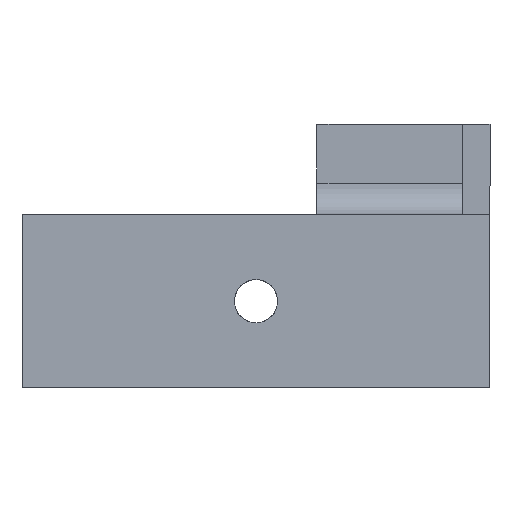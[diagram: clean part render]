
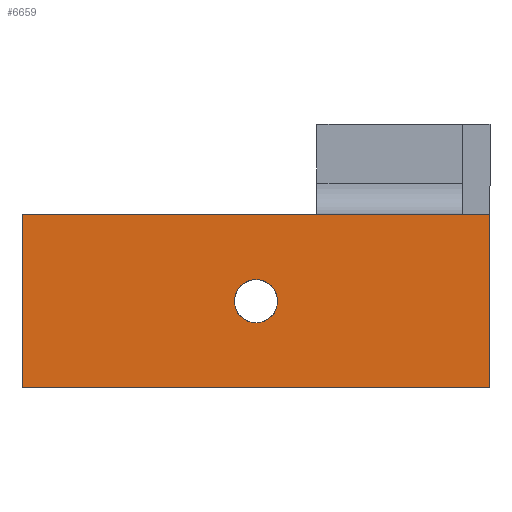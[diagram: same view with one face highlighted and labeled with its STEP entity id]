
A CAD part, front view. The second image highlights one B-rep face of the part: STEP entity #6659.
In plain terms, the highlighted planar face has unit normal (0, -1, 0).
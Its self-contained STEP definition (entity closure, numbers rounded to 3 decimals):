
#118 = CIRCLE ( 'NONE', #5453, 1.375 ) ;
#336 = FACE_BOUND ( 'NONE', #3032, .T. ) ;
#337 = FACE_OUTER_BOUND ( 'NONE', #6432, .T. ) ;
#679 = CARTESIAN_POINT ( 'NONE',  ( 14.875, 0., 5.5 ) ) ;
#680 = DIRECTION ( 'NONE',  ( 0., 1., 0. ) ) ;
#681 = DIRECTION ( 'NONE',  ( 0., 0., 1. ) ) ;
#1026 = CARTESIAN_POINT ( 'NONE',  ( 14.875, 0., 5.5 ) ) ;
#1027 = DIRECTION ( 'NONE',  ( 0., 1., 0. ) ) ;
#1028 = DIRECTION ( 'NONE',  ( 0., 0., 1. ) ) ;
#1029 = CARTESIAN_POINT ( 'NONE',  ( 0., 0., 11. ) ) ;
#1030 = DIRECTION ( 'NONE',  ( 0., 0., -1. ) ) ;
#1159 = CARTESIAN_POINT ( 'NONE',  ( 29.75, 0., 11. ) ) ;
#1160 = DIRECTION ( 'NONE',  ( 0., 0., -1. ) ) ;
#1511 = LINE ( 'NONE', #1029, #1513 ) ;
#1512 = CIRCLE ( 'NONE', #5488, 1.375 ) ;
#1513 = VECTOR ( 'NONE', #1030, 1000. ) ;
#1638 = LINE ( 'NONE', #1159, #1639 ) ;
#1639 = VECTOR ( 'NONE', #1160, 1000. ) ;
#1915 = ORIENTED_EDGE ( 'NONE', *, *, #5886, .T. ) ;
#1916 = ORIENTED_EDGE ( 'NONE', *, *, #5775, .T. ) ;
#1917 = ORIENTED_EDGE ( 'NONE', *, *, #5678, .T. ) ;
#1918 = ORIENTED_EDGE ( 'NONE', *, *, #5960, .F. ) ;
#1919 = ORIENTED_EDGE ( 'NONE', *, *, #3027, .F. ) ;
#1920 = ORIENTED_EDGE ( 'NONE', *, *, #5887, .T. ) ;
#2197 = VERTEX_POINT ( 'NONE', #4669 ) ;
#2257 = VERTEX_POINT ( 'NONE', #4705 ) ;
#2310 = VERTEX_POINT ( 'NONE', #4737 ) ;
#2365 = VERTEX_POINT ( 'NONE', #4743 ) ;
#2367 = VERTEX_POINT ( 'NONE', #4745 ) ;
#2411 = VERTEX_POINT ( 'NONE', #3712 ) ;
#2568 = PLANE ( 'NONE',  #5499 ) ;
#2569 = CARTESIAN_POINT ( 'NONE',  ( 0., 0., 11. ) ) ;
#2570 = DIRECTION ( 'NONE',  ( 0., 1., 0. ) ) ;
#2571 = DIRECTION ( 'NONE',  ( 0., 0., 1. ) ) ;
#3027 = EDGE_CURVE ( 'NONE', #2365, #2411, #5090, .T. ) ;
#3032 = EDGE_LOOP ( 'NONE', ( #1915, #1916 ) ) ;
#3326 = LINE ( 'NONE', #6176, #3327 ) ;
#3327 = VECTOR ( 'NONE', #6177, 1000. ) ;
#3712 = CARTESIAN_POINT ( 'NONE',  ( 29.75, 0., 11. ) ) ;
#4119 = CARTESIAN_POINT ( 'NONE',  ( 0., 0., 11. ) ) ;
#4120 = DIRECTION ( 'NONE',  ( 1., 0., 0. ) ) ;
#4669 = CARTESIAN_POINT ( 'NONE',  ( 14.875, 0., 4.125 ) ) ;
#4705 = CARTESIAN_POINT ( 'NONE',  ( 29.75, 0., 0. ) ) ;
#4737 = CARTESIAN_POINT ( 'NONE',  ( 14.875, 0., 6.875 ) ) ;
#4743 = CARTESIAN_POINT ( 'NONE',  ( 0., 0., 11. ) ) ;
#4745 = CARTESIAN_POINT ( 'NONE',  ( 0., 0., 0. ) ) ;
#5090 = LINE ( 'NONE', #4119, #5091 ) ;
#5091 = VECTOR ( 'NONE', #4120, 1000. ) ;
#5453 = AXIS2_PLACEMENT_3D ( 'NONE', #679, #680, #681 ) ;
#5488 = AXIS2_PLACEMENT_3D ( 'NONE', #1026, #1027, #1028 ) ;
#5499 = AXIS2_PLACEMENT_3D ( 'NONE', #2569, #2570, #2571 ) ;
#5678 = EDGE_CURVE ( 'NONE', #2367, #2257, #3326, .T. ) ;
#5775 = EDGE_CURVE ( 'NONE', #2197, #2310, #118, .T. ) ;
#5886 = EDGE_CURVE ( 'NONE', #2310, #2197, #1512, .T. ) ;
#5887 = EDGE_CURVE ( 'NONE', #2365, #2367, #1511, .T. ) ;
#5960 = EDGE_CURVE ( 'NONE', #2411, #2257, #1638, .T. ) ;
#6176 = CARTESIAN_POINT ( 'NONE',  ( 0., 0., 0. ) ) ;
#6177 = DIRECTION ( 'NONE',  ( 1., 0., 0. ) ) ;
#6432 = EDGE_LOOP ( 'NONE', ( #1917, #1918, #1919, #1920 ) ) ;
#6659 = ADVANCED_FACE ( 'NONE', ( #336, #337 ), #2568, .F. ) ;
